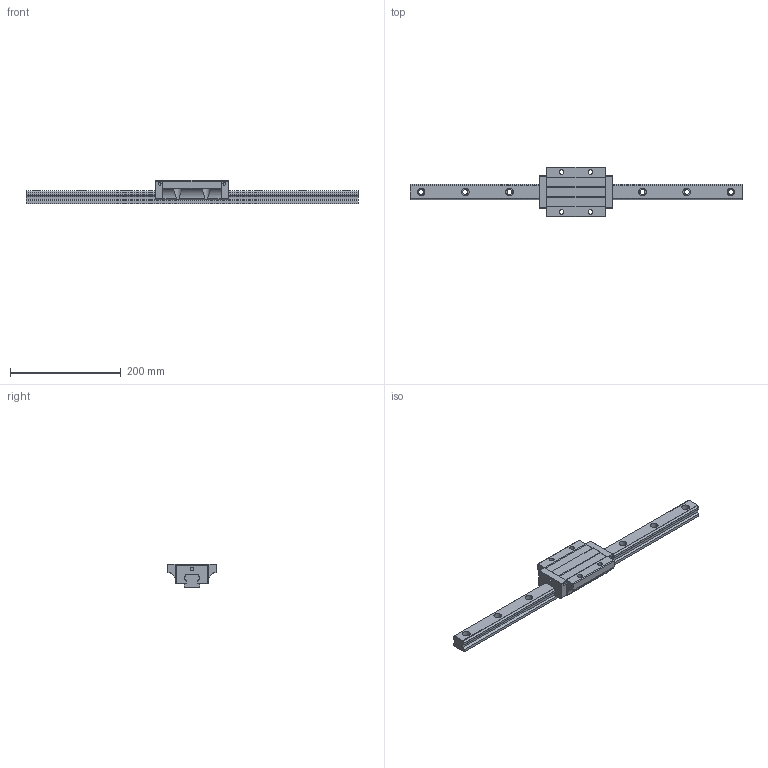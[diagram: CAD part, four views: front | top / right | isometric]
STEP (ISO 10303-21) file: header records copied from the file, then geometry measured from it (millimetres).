
FILE_DESCRIPTION (( 'STEP AP203' ), '1' );
FILE_NAME ('TRH30FE-XN.STEP', '2024-05-09T07:31:55', ( '' ), ( '' ), 'SwSTEP 2.0', 'SolidWorks 2022', '' );
FILE_SCHEMA (( 'CONFIG_CONTROL_DESIGN' ));
Length unit declared in the file: millimetre
Products named in the file (1): TRH30FE-XN
Bounding box: 600 x 90 x 42 mm (x, y, z)
Volume: 579366.3 mm3; surface area: 111450.5 mm2
Topology: 2 solids, 2 shells, 227 faces, 620 edges, 411 vertices
Faces by surface type: cylinder 124, plane 94, sphere 9
Entity records: 8062 total; most frequent: CARTESIAN_POINT 2105, ORIENTED_EDGE 1240, DIRECTION 1228, EDGE_CURVE 620, AXIS2_PLACEMENT_3D 439, VERTEX_POINT 411, LINE 350, VECTOR 350
